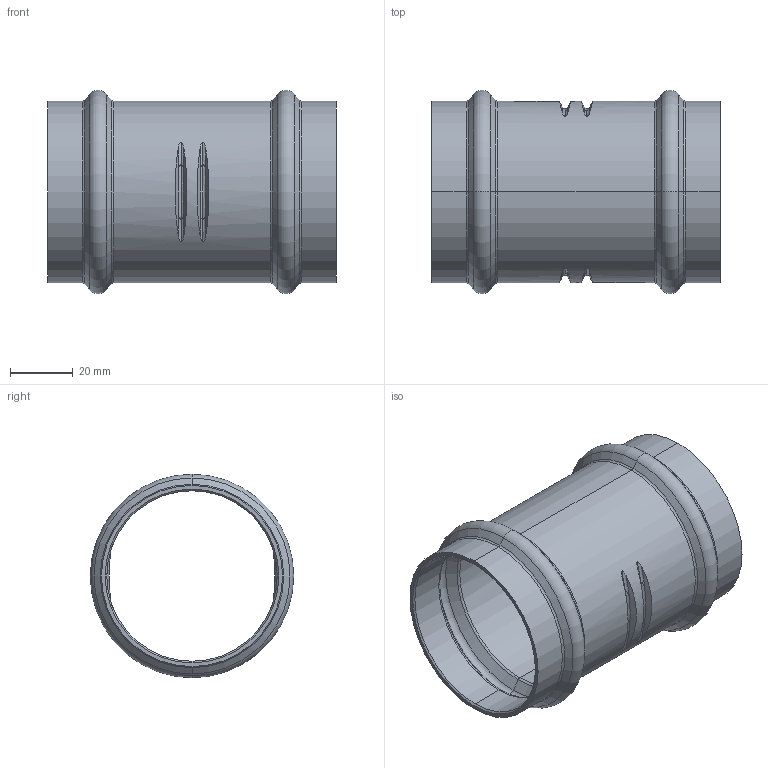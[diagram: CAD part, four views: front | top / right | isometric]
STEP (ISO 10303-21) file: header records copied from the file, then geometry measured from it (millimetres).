
FILE_DESCRIPTION (( 'STEP AP203' ), '1' );
FILE_NAME ('SP5270 54.STEP', '2017-04-24T09:19:39', ( '' ), ( '' ), 'SwSTEP 2.0', 'SolidWorks 2016', '' );
FILE_SCHEMA (( 'CONFIG_CONTROL_DESIGN' ));
Length unit declared in the file: millimetre
Products named in the file (1): SP5270 54
Bounding box: 92 x 64.96 x 64.96 mm (x, y, z)
Volume: 28020.5 mm3; surface area: 35945.6 mm2
Topology: 1 solids, 1 shells, 82 faces, 164 edges, 92 vertices
Faces by surface type: torus 40, cone 28, cylinder 12, plane 2
Entity records: 2777 total; most frequent: CARTESIAN_POINT 987, DIRECTION 398, ORIENTED_EDGE 328, AXIS2_PLACEMENT_3D 183, EDGE_CURVE 164, CIRCLE 100, VERTEX_POINT 92, EDGE_LOOP 92
